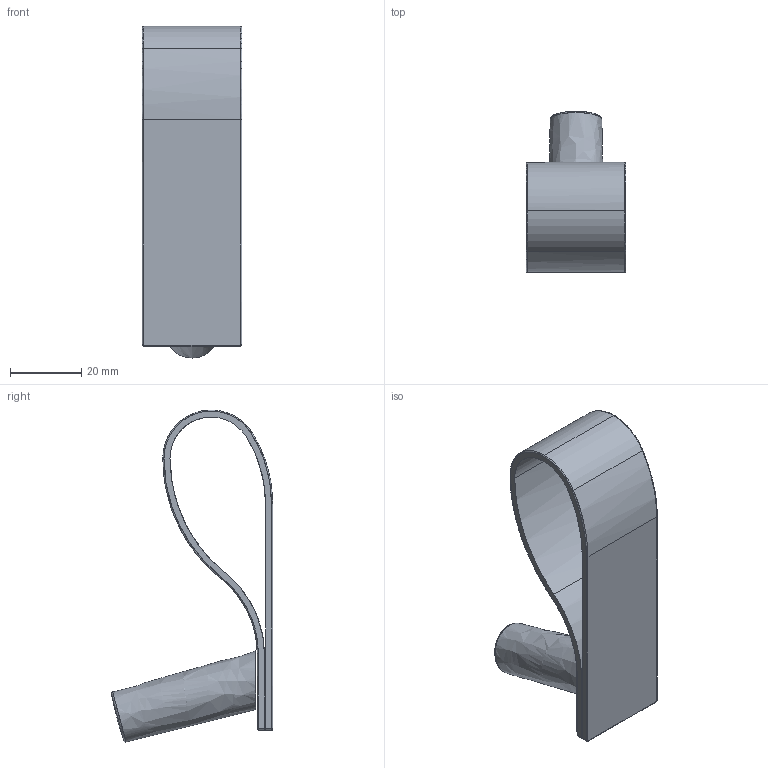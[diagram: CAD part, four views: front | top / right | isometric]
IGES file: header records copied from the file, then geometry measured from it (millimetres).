
Start section: C
Global section: file name: 8357-96.igs; native system: By Siemens PLM Incorporated; preprocessor: XPlus GENERIC/IGES 16.0.42; author: Author; organization: Title; date: 20230815.080213; units: millimetre
Bounding box: 28 x 45.31 x 93.29 mm (x, y, z)
Surface area: 14505.1 mm2 (no closed solid volume)
Topology: 0 solids, 0 shells, 48 faces, 229 edges, 227 vertices
Faces by surface type: bspline 48
